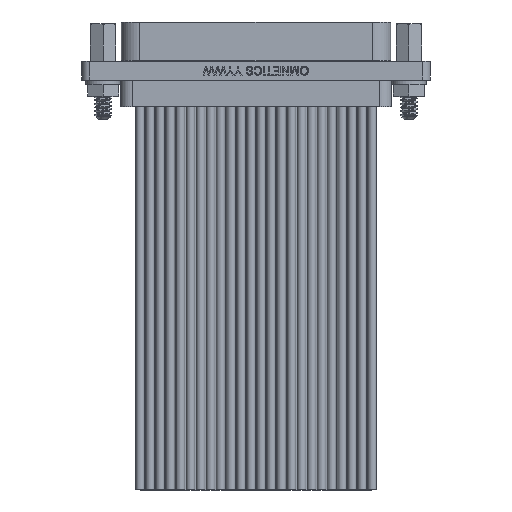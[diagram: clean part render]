
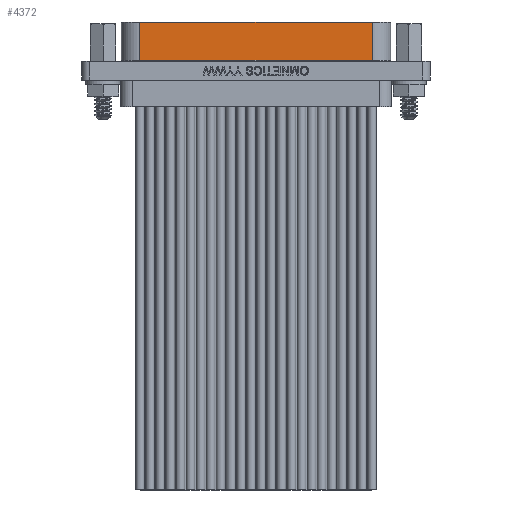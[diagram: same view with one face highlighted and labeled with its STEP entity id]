
A CAD part, front view. The second image highlights one B-rep face of the part: STEP entity #4372.
In plain terms, the highlighted planar face has unit normal (0, -1, 0).
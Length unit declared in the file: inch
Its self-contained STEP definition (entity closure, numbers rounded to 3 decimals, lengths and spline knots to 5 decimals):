
#383 = CARTESIAN_POINT ( 'NONE',  ( 0.575, -0.1176, 0.045 ) ) ;
#1195 = DIRECTION ( 'NONE',  ( 0., 0., -1. ) ) ;
#2297 = CARTESIAN_POINT ( 'NONE',  ( -0.8225, -0.1176, 0.235 ) ) ;
#4372 = ADVANCED_FACE ( 'NONE', ( #40418 ), #27093, .F. ) ;
#6451 = CARTESIAN_POINT ( 'NONE',  ( 0.575, -0.1176, 0.235 ) ) ;
#6911 = LINE ( 'NONE', #58235, #62170 ) ;
#9001 = VERTEX_POINT ( 'NONE', #21506 ) ;
#9751 = VECTOR ( 'NONE', #1195, 39.37008 ) ;
#12544 = DIRECTION ( 'NONE',  ( 0., 1., 0. ) ) ;
#13452 = VERTEX_POINT ( 'NONE', #42805 ) ;
#14103 = ORIENTED_EDGE ( 'NONE', *, *, #47335, .F. ) ;
#14798 = AXIS2_PLACEMENT_3D ( 'NONE', #2297, #12544, #53281 ) ;
#14959 = DIRECTION ( 'NONE',  ( 1., 0., 0. ) ) ;
#17461 = VERTEX_POINT ( 'NONE', #6451 ) ;
#17554 = CARTESIAN_POINT ( 'NONE',  ( -0.575, -0.1176, 0.235 ) ) ;
#19166 = EDGE_CURVE ( 'NONE', #13452, #9001, #30464, .T. ) ;
#19184 = VERTEX_POINT ( 'NONE', #17554 ) ;
#20361 = DIRECTION ( 'NONE',  ( 0., 0., -1. ) ) ;
#21506 = CARTESIAN_POINT ( 'NONE',  ( 0.575, -0.1176, 0.045 ) ) ;
#21776 = EDGE_CURVE ( 'NONE', #19184, #13452, #46548, .T. ) ;
#25999 = CARTESIAN_POINT ( 'NONE',  ( -0.575, -0.1176, 0.235 ) ) ;
#27093 = PLANE ( 'NONE',  #14798 ) ;
#30243 = LINE ( 'NONE', #50475, #56950 ) ;
#30464 = LINE ( 'NONE', #383, #35938 ) ;
#31352 = EDGE_LOOP ( 'NONE', ( #50959, #54825, #14103, #61762 ) ) ;
#35938 = VECTOR ( 'NONE', #14959, 39.37008 ) ;
#40418 = FACE_OUTER_BOUND ( 'NONE', #31352, .T. ) ;
#42805 = CARTESIAN_POINT ( 'NONE',  ( -0.575, -0.1176, 0.045 ) ) ;
#46548 = LINE ( 'NONE', #25999, #9751 ) ;
#47335 = EDGE_CURVE ( 'NONE', #17461, #9001, #30243, .T. ) ;
#50475 = CARTESIAN_POINT ( 'NONE',  ( 0.575, -0.1176, 0.235 ) ) ;
#50959 = ORIENTED_EDGE ( 'NONE', *, *, #21776, .T. ) ;
#53281 = DIRECTION ( 'NONE',  ( 0., 0., 1. ) ) ;
#54825 = ORIENTED_EDGE ( 'NONE', *, *, #19166, .T. ) ;
#56950 = VECTOR ( 'NONE', #20361, 39.37008 ) ;
#58235 = CARTESIAN_POINT ( 'NONE',  ( -0.8225, -0.1176, 0.235 ) ) ;
#61762 = ORIENTED_EDGE ( 'NONE', *, *, #62257, .F. ) ;
#62170 = VECTOR ( 'NONE', #63496, 39.37008 ) ;
#62257 = EDGE_CURVE ( 'NONE', #19184, #17461, #6911, .T. ) ;
#63496 = DIRECTION ( 'NONE',  ( 1., 0., 0. ) ) ;
